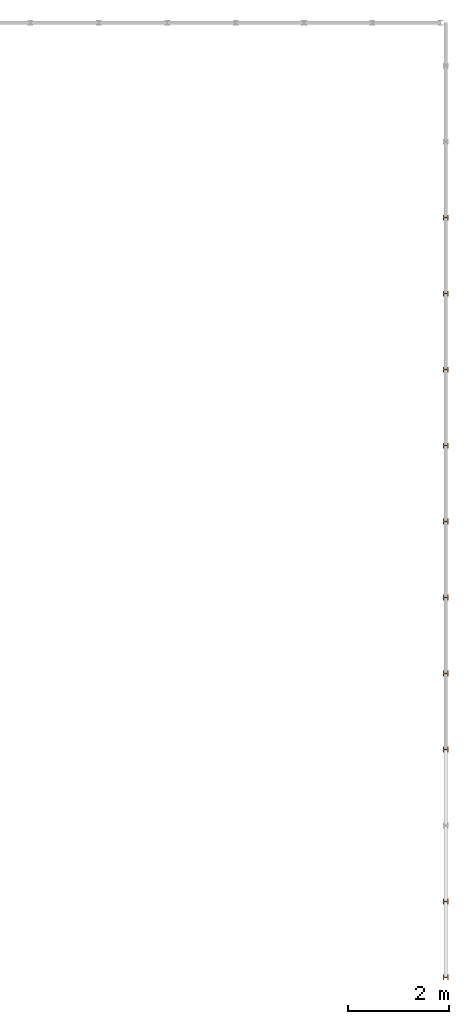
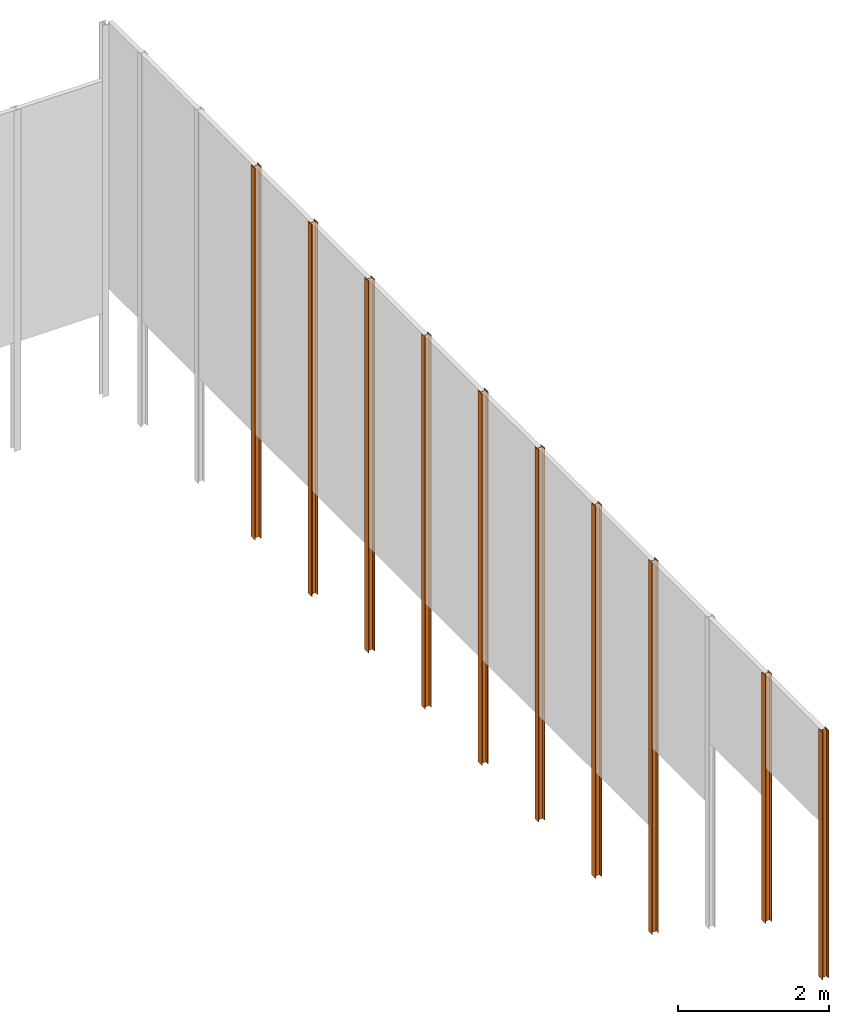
# One storey, part 2 of 4: 10 proxies.
"""IFC4 building model written with IfcOpenShell, lengths in metres."""

from ifc_helpers import new_model, entity, si_unit, converted_unit, derived_unit, frame, origin, origin_with_axes, place, context, subcontext, project, spatial, faceted_brep, source, transform, mapped, material, element, save


model = new_model("IFC4")

# Units and contexts
model_context = context("Model", 3, precision=1e-05, world=origin())
body_context = subcontext(model_context, "Body", "Model", "MODEL_VIEW")
ifc_project = project(units=[si_unit("LENGTHUNIT", "METRE"), si_unit("AREAUNIT", "SQUARE_METRE"), si_unit("VOLUMEUNIT", "CUBIC_METRE"), si_unit("MASSUNIT", "GRAM", prefix="KILO"), converted_unit("PLANEANGLEUNIT", "DEGREE", entity("IfcPlaneAngleMeasure", 0.0174532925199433), si_unit("PLANEANGLEUNIT", "RADIAN"), dimensions=[0, 0, 0, 0, 0, 0, 0]), derived_unit("THERMALTRANSMITTANCEUNIT", [(si_unit("POWERUNIT", "WATT"), 1), (si_unit("THERMODYNAMICTEMPERATUREUNIT", "KELVIN"), -1), (si_unit("LENGTHUNIT", "METRE"), -2)]), derived_unit("VOLUMETRICFLOWRATEUNIT", [(si_unit("LENGTHUNIT", "METRE"), 3), (converted_unit("TIMEUNIT", "hour", entity("IfcTimeMeasure", 3600.0), si_unit("TIMEUNIT", "SECOND"), dimensions=[0, 0, 1, 0, 0, 0, 0]), -1), (si_unit("LENGTHUNIT", "METRE"), -1)])], contexts=[model_context])

# Site, building, storey
site_placement = place(None, origin())
site = spatial("IfcSite", under=ifc_project, at=site_placement, Name="3. ASŘ", CompositionType="ELEMENT")
building_placement = place(site_placement, origin())
building = spatial("IfcBuilding", under=site, at=building_placement, Name="Pavilon C", CompositionType="ELEMENT")
storey_placement = place(building_placement, origin())
storey = spatial("IfcBuildingStorey", under=building, at=storey_placement, Name="Výkopy", CompositionType="ELEMENT", Elevation=0.0)

# Proxies
ifc_material_1 = material(Name="HEB 100")
shared_shape = source(origin_with_axes(), body_context, "Body", "Brep", [
    faceted_brep([(0.0, 0.0, 0.0), (0.1, 0.0, 0.0), (0.1, 0.00999999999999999, 0.0), (0.053, 0.00999999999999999, 0.0), (0.053, 0.09, 0.0), (0.1, 0.09, 0.0), (0.1, 0.1, 0.0), (0.0, 0.1, 0.0), (0.0, 0.09, 0.0), (0.047, 0.09, 0.0), (0.047, 0.01, 0.0), (0.0, 0.01, 0.0), (0.1, 0.0, 6.0), (0.0, 0.0, 6.0), (0.0, 0.01, 6.0), (0.047, 0.01, 6.0), (0.047, 0.09, 6.0), (0.0, 0.09, 6.0), (0.0, 0.1, 6.0), (0.1, 0.1, 6.0), (0.1, 0.09, 6.0), (0.053, 0.09, 6.0), (0.053, 0.00999999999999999, 6.0), (0.1, 0.00999999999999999, 6.0)], [[[0, 1, 2, 3, 4, 5, 6, 7, 8, 9, 10, 11]], [[12, 13, 14, 15, 16, 17, 18, 19, 20, 21, 22, 23]], [[1, 0, 13, 12]], [[7, 6, 19, 18]], [[8, 7, 18, 17]], [[9, 8, 17, 16]], [[10, 9, 16, 15]], [[11, 10, 15, 14]], [[0, 11, 14, 13]], [[2, 1, 12, 23]], [[3, 2, 23, 22]], [[4, 3, 22, 21]], [[5, 4, 21, 20]], [[6, 5, 20, 19]]], orient=[[False], [False], [False], [False], [False], [False], [False], [False], [False], [False], [False], [False], [False], [False]]),
])
proxy_1_placement = place(storey_placement, frame((65.8, 4.42500000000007, -5.8), z_axis=(0.0, 0.0, 1.0), x_axis=(-3.67394039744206e-16, -1.0, 0.0)))
element("IfcBuildingElementProxy", 1, at=proxy_1_placement, inside=storey, material=ifc_material_1, Name="mz04", context=body_context, shape_type="MappedRepresentation", body=[
    mapped(shared_shape, transform((0.0, 0.0, 0.0), x_axis=(1.0, 0.0, 0.0), y_axis=(0.0, 1.0, 0.0), z_axis=(0.0, 0.0, 1.0), scale=1.0)),
])
ifc_material_2 = material(Name="HEB 100")
proxy_2_placement = place(storey_placement, frame((65.8, 10.4250000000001, -5.8), z_axis=(0.0, 0.0, 1.0), x_axis=(-3.67394039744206e-16, -1.0, 0.0)))
element("IfcBuildingElementProxy", 2, at=proxy_2_placement, inside=storey, material=ifc_material_2, Name="mz08", context=body_context, shape_type="MappedRepresentation", body=[
    mapped(shared_shape, transform((0.0, 0.0, 0.0), x_axis=(1.0, 0.0, 0.0), y_axis=(0.0, 1.0, 0.0), z_axis=(0.0, 0.0, 1.0), scale=1.0)),
])
ifc_material_3 = material(Name="HEB 100")
proxy_3_placement = place(storey_placement, frame((65.8, 8.92500000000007, -5.8), z_axis=(0.0, 0.0, 1.0), x_axis=(-3.67394039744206e-16, -1.0, 0.0)))
element("IfcBuildingElementProxy", 3, at=proxy_3_placement, inside=storey, material=ifc_material_3, Name="mz07", context=body_context, shape_type="MappedRepresentation", body=[
    mapped(shared_shape, transform((0.0, 0.0, 0.0), x_axis=(1.0, 0.0, 0.0), y_axis=(0.0, 1.0, 0.0), z_axis=(0.0, 0.0, 1.0), scale=1.0)),
])
ifc_material_4 = material(Name="HEB 100")
proxy_4_placement = place(storey_placement, frame((65.8, 7.42500000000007, -5.8), z_axis=(0.0, 0.0, 1.0), x_axis=(-3.67394039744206e-16, -1.0, 0.0)))
element("IfcBuildingElementProxy", 4, at=proxy_4_placement, inside=storey, material=ifc_material_4, Name="mz06", context=body_context, shape_type="MappedRepresentation", body=[
    mapped(shared_shape, transform((0.0, 0.0, 0.0), x_axis=(1.0, 0.0, 0.0), y_axis=(0.0, 1.0, 0.0), z_axis=(0.0, 0.0, 1.0), scale=1.0)),
])
ifc_material_5 = material(Name="HEB 100")
proxy_5_placement = place(storey_placement, frame((65.8, 5.92500000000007, -5.8), z_axis=(0.0, 0.0, 1.0), x_axis=(-3.67394039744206e-16, -1.0, 0.0)))
element("IfcBuildingElementProxy", 5, at=proxy_5_placement, inside=storey, material=ifc_material_5, Name="mz05", context=body_context, shape_type="MappedRepresentation", body=[
    mapped(shared_shape, transform((0.0, 0.0, 0.0), x_axis=(1.0, 0.0, 0.0), y_axis=(0.0, 1.0, 0.0), z_axis=(0.0, 0.0, 1.0), scale=1.0)),
])
ifc_material_6 = material(Name="HEB 100")
proxy_6_placement = place(storey_placement, frame((65.8, 13.4250000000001, -5.8), z_axis=(0.0, 0.0, 1.0), x_axis=(-3.67394039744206e-16, -1.0, 0.0)))
element("IfcBuildingElementProxy", 6, at=proxy_6_placement, inside=storey, material=ifc_material_6, Name="mz10", context=body_context, shape_type="MappedRepresentation", body=[
    mapped(shared_shape, transform((0.0, 0.0, 0.0), x_axis=(1.0, 0.0, 0.0), y_axis=(0.0, 1.0, 0.0), z_axis=(0.0, 0.0, 1.0), scale=1.0)),
])
ifc_material_7 = material(Name="HEB 100")
proxy_7_placement = place(storey_placement, frame((65.8, 11.9250000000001, -5.8), z_axis=(0.0, 0.0, 1.0), x_axis=(-3.67394039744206e-16, -1.0, 0.0)))
element("IfcBuildingElementProxy", 7, at=proxy_7_placement, inside=storey, material=ifc_material_7, Name="mz09", context=body_context, shape_type="MappedRepresentation", body=[
    mapped(shared_shape, transform((0.0, 0.0, 0.0), x_axis=(1.0, 0.0, 0.0), y_axis=(0.0, 1.0, 0.0), z_axis=(0.0, 0.0, 1.0), scale=1.0)),
])
ifc_material_8 = material(Name="HEB 100")
proxy_8_placement = place(storey_placement, frame((65.8, 14.9250000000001, -5.8), z_axis=(0.0, 0.0, 1.0), x_axis=(-3.67394039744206e-16, -1.0, 0.0)))
element("IfcBuildingElementProxy", 8, at=proxy_8_placement, inside=storey, material=ifc_material_8, Name="mz11", context=body_context, shape_type="MappedRepresentation", body=[
    mapped(shared_shape, transform((0.0, 0.0, 0.0), x_axis=(1.0, 0.0, 0.0), y_axis=(0.0, 1.0, 0.0), z_axis=(0.0, 0.0, 1.0), scale=1.0)),
])
ifc_material_9 = material(Name="HEB 100")
proxy_9_placement = place(storey_placement, frame((65.8, -0.0749999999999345, -3.8), z_axis=(0.0, 0.0, 0.666666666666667), x_axis=(-3.67394039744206e-16, -1.0, 0.0)))
element("IfcBuildingElementProxy", 9, at=proxy_9_placement, inside=storey, material=ifc_material_9, Name="mz01", context=body_context, shape_type="MappedRepresentation", body=[
    mapped(shared_shape, transform((0.0, 0.0, 0.0), x_axis=(1.0, 0.0, 0.0), y_axis=(0.0, 1.0, 0.0), z_axis=(0.0, 0.0, 1.0), scale=1.0, scale2=1.0, scale3=0.666666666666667, uniform=False)),
])
ifc_material_10 = material(Name="HEB 100")
proxy_10_placement = place(storey_placement, frame((65.8, 1.42500000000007, -3.8), z_axis=(0.0, 0.0, 0.666666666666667), x_axis=(-3.67394039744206e-16, -1.0, 0.0)))
element("IfcBuildingElementProxy", 10, at=proxy_10_placement, inside=storey, material=ifc_material_10, Name="mz02", context=body_context, shape_type="MappedRepresentation", body=[
    mapped(shared_shape, transform((0.0, 0.0, 0.0), x_axis=(1.0, 0.0, 0.0), y_axis=(0.0, 1.0, 0.0), z_axis=(0.0, 0.0, 1.0), scale=1.0, scale2=1.0, scale3=0.666666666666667, uniform=False)),
])

save(model, "model.ifc")
